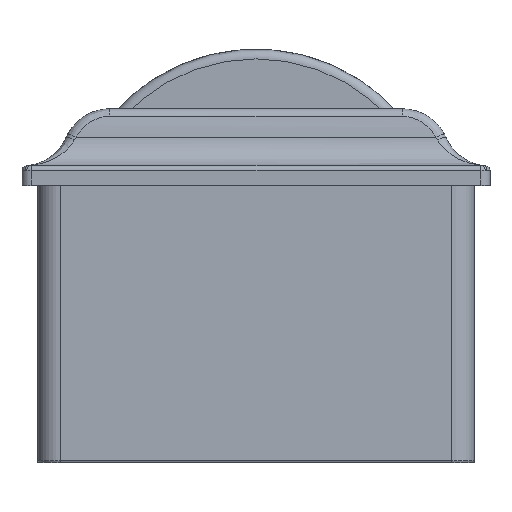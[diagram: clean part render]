
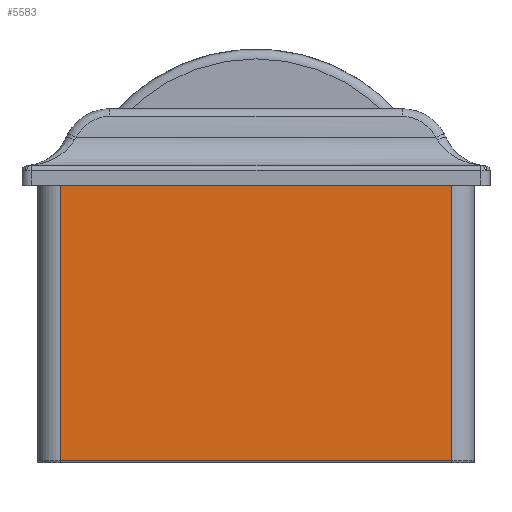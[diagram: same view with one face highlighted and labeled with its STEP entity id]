
A CAD part, top view. The second image highlights one B-rep face of the part: STEP entity #5583.
In plain terms, the highlighted planar face has unit normal (0, 0, 1).
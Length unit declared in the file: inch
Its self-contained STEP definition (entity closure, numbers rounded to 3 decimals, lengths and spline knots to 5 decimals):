
#1666 = CARTESIAN_POINT ( 'NONE',  ( 0.6375, 0.005, 0.31 ) ) ;
#1755 = CARTESIAN_POINT ( 'NONE',  ( 0.6375, 0.903, 0.31 ) ) ;
#2080 = DIRECTION ( 'NONE',  ( 1., 0., 0. ) ) ;
#2081 = VECTOR ( 'NONE', #2080, 39.37008 ) ;
#2085 = CARTESIAN_POINT ( 'NONE',  ( 0.7125, 0.005, 0.31 ) ) ;
#2086 = LINE ( 'NONE', #2085, #2081 ) ;
#2224 = DIRECTION ( 'NONE',  ( 0., 1., 0. ) ) ;
#2225 = VECTOR ( 'NONE', #2224, 39.37008 ) ;
#2226 = CARTESIAN_POINT ( 'NONE',  ( 0.6375, 0.903, 0.31 ) ) ;
#2228 = LINE ( 'NONE', #2226, #2225 ) ;
#2290 = DIRECTION ( 'NONE',  ( -1., 0., 0. ) ) ;
#2291 = DIRECTION ( 'NONE',  ( 0., 0., -1. ) ) ;
#2358 = CARTESIAN_POINT ( 'NONE',  ( -0.6375, 0.005, 0.31 ) ) ;
#2365 = CARTESIAN_POINT ( 'NONE',  ( -0.6375, 0.903, 0.31 ) ) ;
#2395 = AXIS2_PLACEMENT_3D ( 'NONE', #2409, #2291, #2290 ) ;
#2398 = FACE_OUTER_BOUND ( 'NONE', #5497, .T. ) ;
#2399 = DIRECTION ( 'NONE',  ( 1., 0., 0. ) ) ;
#2400 = VECTOR ( 'NONE', #2399, 39.37008 ) ;
#2401 = CARTESIAN_POINT ( 'NONE',  ( 0.7125, 0.903, 0.31 ) ) ;
#2406 = LINE ( 'NONE', #2401, #2400 ) ;
#2407 = PLANE ( 'NONE',  #2395 ) ;
#2409 = CARTESIAN_POINT ( 'NONE',  ( 0.7125, 0.903, 0.31 ) ) ;
#2429 = DIRECTION ( 'NONE',  ( 0., -1., 0. ) ) ;
#2430 = VECTOR ( 'NONE', #2429, 39.37008 ) ;
#2431 = CARTESIAN_POINT ( 'NONE',  ( -0.6375, 0.903, 0.31 ) ) ;
#2432 = LINE ( 'NONE', #2431, #2430 ) ;
#5358 = VERTEX_POINT ( 'NONE', #1666 ) ;
#5399 = EDGE_CURVE ( 'NONE', #5525, #5358, #2086, .T. ) ;
#5462 = ORIENTED_EDGE ( 'NONE', *, *, #5463, .T. ) ;
#5463 = EDGE_CURVE ( 'NONE', #5358, #5513, #2228, .T. ) ;
#5497 = EDGE_LOOP ( 'NONE', ( #5620, #5582, #5462, #5619 ) ) ;
#5513 = VERTEX_POINT ( 'NONE', #1755 ) ;
#5525 = VERTEX_POINT ( 'NONE', #2358 ) ;
#5573 = EDGE_CURVE ( 'NONE', #5618, #5513, #2406, .T. ) ;
#5582 = ORIENTED_EDGE ( 'NONE', *, *, #5399, .T. ) ;
#5583 = ADVANCED_FACE ( 'NONE', ( #2398 ), #2407, .F. ) ;
#5618 = VERTEX_POINT ( 'NONE', #2365 ) ;
#5619 = ORIENTED_EDGE ( 'NONE', *, *, #5573, .F. ) ;
#5620 = ORIENTED_EDGE ( 'NONE', *, *, #5624, .T. ) ;
#5624 = EDGE_CURVE ( 'NONE', #5618, #5525, #2432, .T. ) ;
